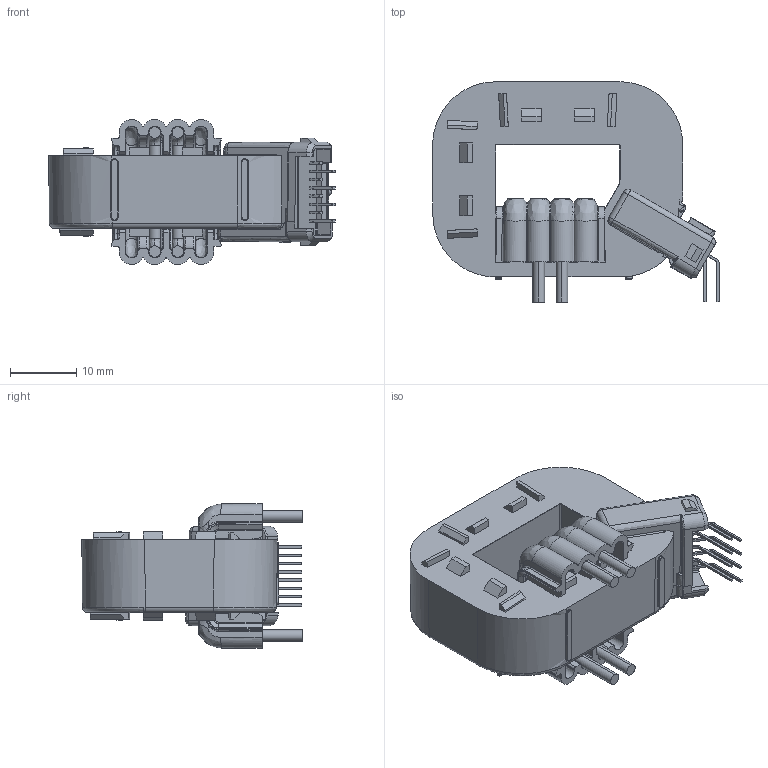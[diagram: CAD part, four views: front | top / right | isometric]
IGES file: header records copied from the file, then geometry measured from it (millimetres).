
Start section: Elysium IGES Interface
Global section: file name: Z:\Projet HO 250 C core\06-Mechanics Doc\BLACK_BOX\HO-P_series\HO-PW series.igs; native system: PTC Creo Elements/Direct Modeling 19.0E  27-Jun-2016; preprocessor: Creo Element/Direct IGES_3D V2.2; author: Unknown; organization: Unknown; date: 20171214.142400; units: millimetre
Bounding box: 43.31 x 33.3 x 21.89 mm (x, y, z)
Volume: 10994.6 mm3; surface area: 6466.9 mm2
Topology: 1 solids, 1 shells, 1056 faces, 2755 edges, 1721 vertices
Faces by surface type: bspline 1056
